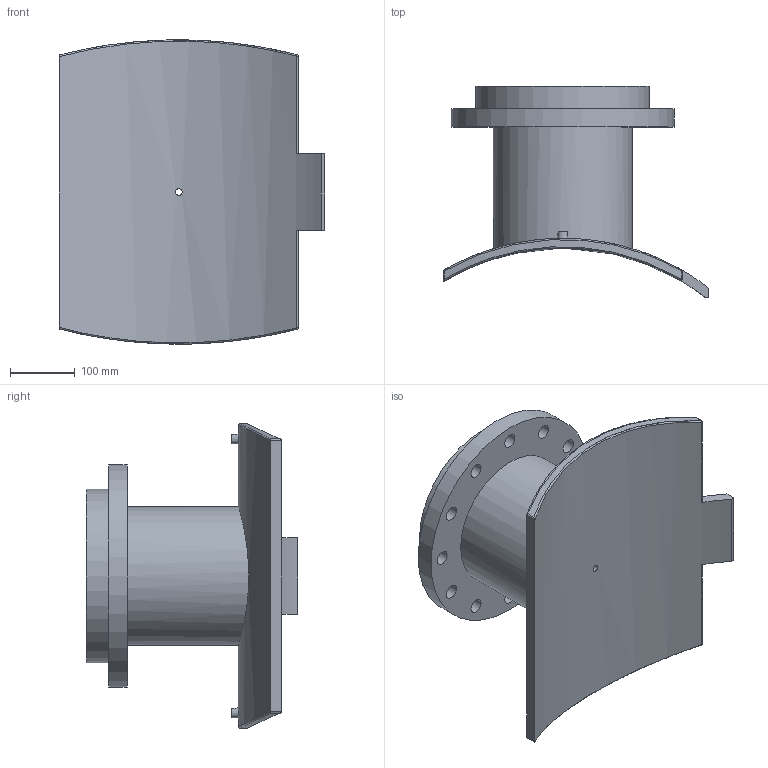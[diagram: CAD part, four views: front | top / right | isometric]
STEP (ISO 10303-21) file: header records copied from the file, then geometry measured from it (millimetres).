
FILE_DESCRIPTION(/* description */ ('PLASSON FLANGED BRANCH SADDLE 710X200'),/* implementation_level */ '2;1');
FILE_NAME(/* name */ 'C:\Dropbox\KIMPROJECTS-Inventor 2019\99-16-3568-Processing\ElectroFusion Fittings\495904_495903\stp\495903710200T.stp',/* time_stamp */ '2024-04-03T21:02:42+02:00',/* author */ ('KIM'),/* organization */ (''),/* preprocessor_version */ 'ST-DEVELOPER v17.2',/* originating_system */ 'Autodesk Inventor 2019',/* authorisation */ '');
FILE_SCHEMA (('AUTOMOTIVE_DESIGN { 1 0 10303 214 3 1 1 }'));
Length unit declared in the file: millimetre
Products named in the file (1): 495903710200T
Bounding box: 410 x 326.66 x 469.57 mm (x, y, z)
Volume: 8589860.2 mm3; surface area: 836267.2 mm2
Topology: 1 solids, 1 shells, 63 faces, 166 edges, 128 vertices
Faces by surface type: cylinder 36, plane 17, sphere 4, bspline 4, cone 2
Full cylindrical faces by diameter (mm): 4 x2, 10 x2, 10.4 x1, 16 x1, 22 x12, 163 x1, 214.4 x1, 268 x1, 344 x1
Entity records: 2636 total; most frequent: CARTESIAN_POINT 979, DIRECTION 332, ORIENTED_EDGE 304, EDGE_CURVE 152, AXIS2_PLACEMENT_3D 140, VERTEX_POINT 102, EDGE_LOOP 100, CIRCLE 80
